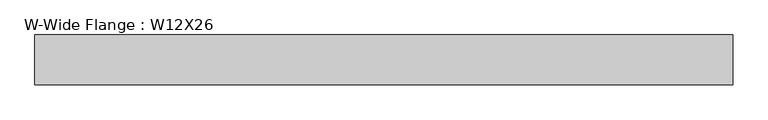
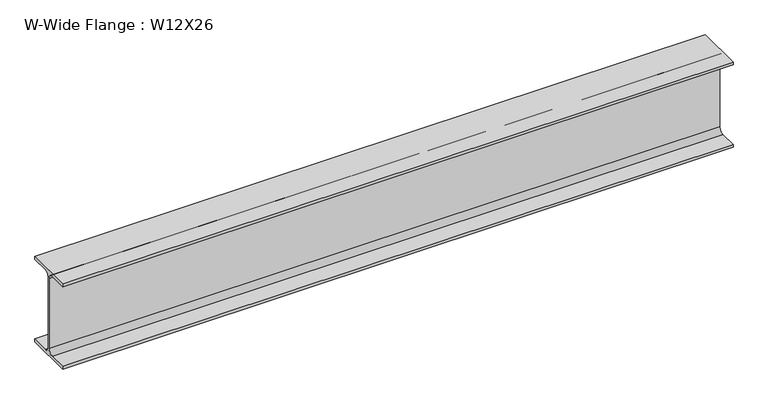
"""IFC4 building model written with IfcOpenShell, lengths in millimetres: beam geometry, W-Wide Flange : W12X26."""

from ifc_helpers import new_model, si_unit, point, frame, frame_2d, origin, place, context, project, spatial, polyline, circle_curve, trimmed, segment, composite_curve, outline, extrude, source, transform, mapped, element, save


def w_wide_flange_w12x26_4a3d4e5c(model_context):
    return source(origin(), model_context, "Body", "SweptSolid", [
        extrude(outline(composite_curve([segment(polyline([(82.4011719, -145.5539063), (82.4011719, -155.178125), (-82.4011719, -155.178125), (-82.4011719, -145.5539063), (-20.2902344, -145.5539063)]), True, "CONTINUOUS"), segment(trimmed(circle_curve(frame_2d((-20.2902344, -128.190625)), 17.3632812), [point((-20.2902344, -145.5539063))], [point((-2.9269531, -128.190625))], True, "CARTESIAN"), True, "CONTINUOUS"), segment(polyline([(-2.9269531, -128.190625), (-2.9269531, 128.190625)]), True, "CONTINUOUS"), segment(trimmed(circle_curve(frame_2d((-20.2902344, 128.190625)), 17.3632812), [point((-2.9269531, 128.190625))], [point((-20.2902344, 145.5539062))], True, "CARTESIAN"), True, "CONTINUOUS"), segment(polyline([(-20.2902344, 145.5539062), (-82.4011719, 145.5539062), (-82.4011719, 155.178125), (82.4011719, 155.178125), (82.4011719, 145.5539062), (20.2902344, 145.5539062)]), True, "CONTINUOUS"), segment(trimmed(circle_curve(frame_2d((20.2902344, 128.190625)), 17.3632812), [point((20.2902344, 145.5539062))], [point((2.9269531, 128.190625))], True, "CARTESIAN"), True, "CONTINUOUS"), segment(polyline([(2.9269531, 128.190625), (2.9269531, -128.190625)]), True, "CONTINUOUS"), segment(trimmed(circle_curve(frame_2d((20.2902344, -128.190625)), 17.3632812), [point((2.9269531, -128.190625))], [point((20.2902344, -145.5539063))], True, "CARTESIAN"), True, "CONTINUOUS"), segment(polyline([(20.2902344, -145.5539063), (82.4011719, -145.5539063)]), True, "CONTINUOUS")], self_intersect=False)), frame((-1155.9480469, 0.0, 0.0), z_axis=(1.0, 0.0, 0.0), x_axis=(0.0, 1.0, 0.0)), (0.0, 0.0, 1.0), 2311.8960937),
    ])


if __name__ == "__main__":
    model = new_model("IFC4")
    model_context = context("Model", 3, world=origin())
    ifc_project = project(units=[si_unit("LENGTHUNIT", "METRE", prefix="MILLI")], contexts=[model_context])
    site = spatial("IfcSite", under=ifc_project)
    building = spatial("IfcBuilding", under=site)
    placement = place(None, origin())
    w_wide_flange_w12x26_shape = w_wide_flange_w12x26_4a3d4e5c(model_context)
    element("IfcBeam", 1, ObjectType="W-Wide Flange : W12X26", at=placement, inside=building, context=model_context, shape_type="MappedRepresentation", body=[
        mapped(w_wide_flange_w12x26_shape, transform((0.0, 0.0, 0.0), x_axis=(1.0, 0.0, 0.0), y_axis=(0.0, 1.0, 0.0), z_axis=(0.0, 0.0, 1.0))),
    ])
    save(model, "model.ifc")
